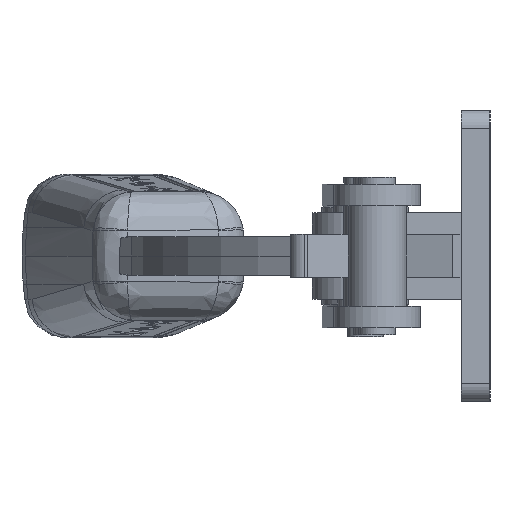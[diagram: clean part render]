
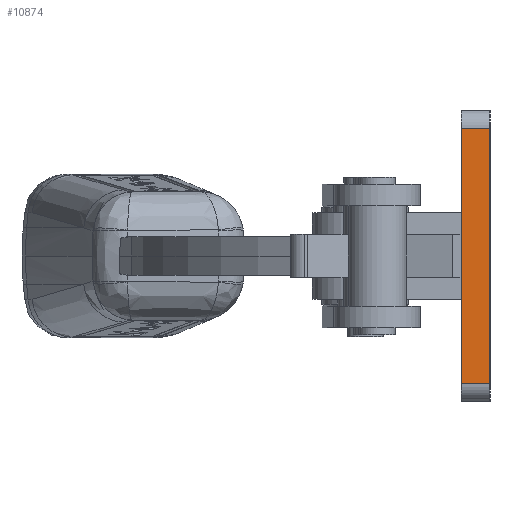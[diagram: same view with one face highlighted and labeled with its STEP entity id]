
A CAD part, left-side view. The second image highlights one B-rep face of the part: STEP entity #10874.
In plain terms, the highlighted planar face has unit normal (-1, 0, 0).
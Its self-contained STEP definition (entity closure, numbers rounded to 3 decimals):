
#797 = DIRECTION ( 'NONE',  ( 0., -1., 0. ) ) ;
#845 = CARTESIAN_POINT ( 'NONE',  ( -25., 6.35, -28. ) ) ;
#873 = CARTESIAN_POINT ( 'NONE',  ( -25., 6.35, -28. ) ) ;
#1430 = ORIENTED_EDGE ( 'NONE', *, *, #18128, .T. ) ;
#2064 = VECTOR ( 'NONE', #797, 1000. ) ;
#2777 = EDGE_LOOP ( 'NONE', ( #1430, #3610, #13841, #15698 ) ) ;
#3463 = EDGE_CURVE ( 'NONE', #9254, #13625, #20139, .T. ) ;
#3610 = ORIENTED_EDGE ( 'NONE', *, *, #19950, .F. ) ;
#3701 = CARTESIAN_POINT ( 'NONE',  ( -25., 0., -28. ) ) ;
#4056 = DIRECTION ( 'NONE',  ( 0., 0., -1. ) ) ;
#4833 = AXIS2_PLACEMENT_3D ( 'NONE', #10821, #14219, #4056 ) ;
#5943 = VERTEX_POINT ( 'NONE', #13701 ) ;
#5987 = LINE ( 'NONE', #13257, #10496 ) ;
#6048 = LINE ( 'NONE', #873, #2064 ) ;
#6204 = EDGE_CURVE ( 'NONE', #9254, #5943, #6048, .T. ) ;
#6613 = VECTOR ( 'NONE', #21899, 1000. ) ;
#9113 = PLANE ( 'NONE',  #4833 ) ;
#9254 = VERTEX_POINT ( 'NONE', #845 ) ;
#10496 = VECTOR ( 'NONE', #21742, 1000. ) ;
#10821 = CARTESIAN_POINT ( 'NONE',  ( -25., 6.35, -28. ) ) ;
#10874 = ADVANCED_FACE ( 'NONE', ( #13090 ), #9113, .F. ) ;
#13090 = FACE_OUTER_BOUND ( 'NONE', #2777, .T. ) ;
#13257 = CARTESIAN_POINT ( 'NONE',  ( -25., 6.35, 28. ) ) ;
#13625 = VERTEX_POINT ( 'NONE', #16951 ) ;
#13701 = CARTESIAN_POINT ( 'NONE',  ( -25., 0., -28. ) ) ;
#13841 = ORIENTED_EDGE ( 'NONE', *, *, #3463, .F. ) ;
#14219 = DIRECTION ( 'NONE',  ( 1., 0., 0. ) ) ;
#14266 = VECTOR ( 'NONE', #20681, 1000. ) ;
#14780 = LINE ( 'NONE', #3701, #14266 ) ;
#15698 = ORIENTED_EDGE ( 'NONE', *, *, #6204, .T. ) ;
#16951 = CARTESIAN_POINT ( 'NONE',  ( -25., 6.35, 28. ) ) ;
#17687 = VERTEX_POINT ( 'NONE', #20777 ) ;
#18128 = EDGE_CURVE ( 'NONE', #5943, #17687, #14780, .T. ) ;
#18538 = CARTESIAN_POINT ( 'NONE',  ( -25., 6.35, -28. ) ) ;
#19950 = EDGE_CURVE ( 'NONE', #13625, #17687, #5987, .T. ) ;
#20139 = LINE ( 'NONE', #18538, #6613 ) ;
#20681 = DIRECTION ( 'NONE',  ( 0., 0., 1. ) ) ;
#20777 = CARTESIAN_POINT ( 'NONE',  ( -25., 0., 28. ) ) ;
#21742 = DIRECTION ( 'NONE',  ( 0., -1., 0. ) ) ;
#21899 = DIRECTION ( 'NONE',  ( 0., 0., 1. ) ) ;
